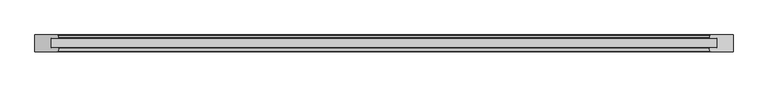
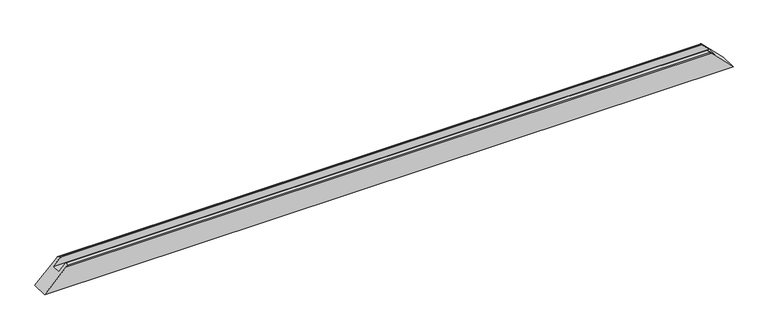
"""IFC4 building model written with IfcOpenShell, lengths in millimetres: proxy geometry, Weiku - Montante - Caixilho fixo : Weiku - Montante - Caixilho fixo."""

from ifc_helpers import new_model, si_unit, frame, origin, place, context, project, spatial, ellipse_curve, source, transform, mapped, element, save
from ifc_brep_helpers import plane_surface, cylinder_surface, advanced_brep


def generic_models_e46d5308(model_context):
    return source(origin(), model_context, "Body", "AdvancedBrep", [
        advanced_brep(
        [(-904.118227, -37.0070552, 66.881773), (-904.8909676, -36.0, 66.1090324), (-925.0, -36.0, 46.0), (-925.0, -9.5, 46.0), (-904.7, -9.5, 66.3), (-904.0, -8.8, 67.0), (-904.0, -7.4641016, 67.0), (-904.2679492, -6.4641016, 66.7320508), (-907.7113249, -0.5, 63.2886751), (-908.5773503, 0.0, 62.4226497), (-971.0, 0.0, 0.0), (-971.0, -47.0, 0.0), (-909.0978094, -47.0, 61.9021906), (-906.2000319, -44.7764571, 64.7999681), (906.2000319, -44.7764571, 64.7999681), (909.0978094, -47.0, 61.9021906), (971.0, -47.0, 0.0), (971.0, 0.0, 0.0), (908.5773503, 0.0, 62.4226497), (907.7113249, -0.5, 63.2886751), (904.2679492, -6.4641016, 66.7320508), (904.0, -7.4641016, 67.0), (904.0, -8.8, 67.0), (904.7, -9.5, 66.3), (925.0, -9.5, 46.0), (925.0, -36.0, 46.0), (904.8909676, -36.0, 66.1090324), (904.118227, -37.0070552, 66.881773)],
        [
            (0, 1, ellipse_curve(frame((-904.8909676, -36.8, 66.1090324), z_axis=(-0.7071067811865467, 0.0, 0.7071067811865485), x_axis=(-0.7071067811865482, 0.0, -0.7071067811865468)), 1.1313708, 0.8)),
            (1, 2),
            (2, 3),
            (3, 4),
            (4, 5, ellipse_curve(frame((-904.7, -8.8, 66.3), z_axis=(-0.7071067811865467, 0.0, 0.7071067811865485), x_axis=(-0.7071067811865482, 0.0, -0.7071067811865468)), 0.9899495, 0.7)),
            (5, 6),
            (6, 7, ellipse_curve(frame((-906.0, -7.4641016, 65.0), z_axis=(-0.7071067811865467, 0.0, 0.7071067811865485), x_axis=(-0.7071067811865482, 0.0, -0.7071067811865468)), 2.8284271, 2.0)),
            (7, 8),
            (8, 9, ellipse_curve(frame((-908.5773503, -1.0, 62.4226497), z_axis=(-0.7071067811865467, 0.0, 0.7071067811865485), x_axis=(-0.7071067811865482, 0.0, -0.7071067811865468)), 1.4142136, 1.0)),
            (9, 10),
            (10, 11),
            (11, 12),
            (12, 13, ellipse_curve(frame((-909.0978094, -44.0, 61.9021906), z_axis=(-0.7071067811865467, 0.0, 0.7071067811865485), x_axis=(-0.7071067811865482, 0.0, -0.7071067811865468)), 4.2426407, 3.0)),
            (13, 0),
            (14, 15, ellipse_curve(frame((909.0978094, -44.0, 61.9021906), z_axis=(0.7071067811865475, 0.0, 0.7071067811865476), x_axis=(-0.7071067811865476, 0.0, 0.7071067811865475)), 4.2426407, 3.0)),
            (15, 16),
            (16, 17),
            (17, 18),
            (18, 19, ellipse_curve(frame((908.5773503, -1.0, 62.4226497), z_axis=(0.7071067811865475, 0.0, 0.7071067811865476), x_axis=(-0.7071067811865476, 0.0, 0.7071067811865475)), 1.4142136, 1.0)),
            (19, 20),
            (20, 21, ellipse_curve(frame((906.0, -7.4641016, 65.0), z_axis=(0.7071067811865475, 0.0, 0.7071067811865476), x_axis=(-0.7071067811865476, 0.0, 0.7071067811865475)), 2.8284271, 2.0)),
            (21, 22),
            (22, 23, ellipse_curve(frame((904.7, -8.8, 66.3), z_axis=(0.7071067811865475, 0.0, 0.7071067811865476), x_axis=(-0.7071067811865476, 0.0, 0.7071067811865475)), 0.9899495, 0.7)),
            (23, 24),
            (24, 25),
            (25, 26),
            (26, 27, ellipse_curve(frame((904.8909676, -36.8, 66.1090324), z_axis=(0.7071067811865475, 0.0, 0.7071067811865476), x_axis=(-0.7071067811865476, 0.0, 0.7071067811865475)), 1.1313708, 0.8)),
            (27, 14),
            (13, 14),
            (27, 0),
            (12, 15),
            (11, 16),
            (10, 17),
            (9, 18),
            (2, 25),
            (24, 3),
            (1, 26),
            (8, 19),
            (7, 20),
            (6, 21),
            (5, 22),
            (4, 23),
        ],
        [
            plane_surface(frame((-1041.0, 15.0, -70.0), z_axis=(-0.7071067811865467, 0.0, 0.7071067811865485), x_axis=(0.0, -1.0, 0.0))),
            plane_surface(frame((901.0, 15.0, 70.0), z_axis=(0.7071067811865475, 0.0, 0.7071067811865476), x_axis=(0.0, -1.0, 0.0))),
            plane_surface(frame((-971.0, -37.0070552, 66.881773), z_axis=(0.0, -0.2588190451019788, 0.9659258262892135), x_axis=(1.0, 0.0, 0.0))),
            cylinder_surface(frame((-971.0, -44.0, 61.9021906), z_axis=(-1.0, 0.0, 0.0), x_axis=(0.0, -1.0, 0.0)), 3.0),
            plane_surface(frame((-971.0, -47.0, 61.9021906), z_axis=(0.0, -1.0, 0.0), x_axis=(1.0, 0.0, 0.0))),
            plane_surface(frame((-971.0, -47.0, 0.0), z_axis=(0.0, 0.0, -1.0), x_axis=(1.0, 0.0, 0.0))),
            plane_surface(frame((-971.0, 0.0, 0.0), z_axis=(0.0, 1.0, 0.0), x_axis=(1.0, 0.0, 0.0))),
            plane_surface(frame((-971.0, -9.5, 46.0), z_axis=(0.0, 0.0, 1.0), x_axis=(1.0, 0.0, 0.0))),
            plane_surface(frame((-971.0, -36.0, 46.0), z_axis=(0.0, 1.0, 0.0), x_axis=(1.0, 0.0, 0.0))),
            cylinder_surface(frame((-971.0, -36.8, 66.1090324), z_axis=(-1.0, 0.0, 0.0), x_axis=(0.0, -1.0, 0.0)), 0.8),
            cylinder_surface(frame((-971.0, -1.0, 62.4226497), z_axis=(-1.0, 0.0, 0.0), x_axis=(0.0, -1.0, 0.0)), 1.0),
            plane_surface(frame((-971.0, -0.5, 63.2886751), z_axis=(0.0, 0.49999999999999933, 0.866025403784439), x_axis=(1.0, 0.0, 0.0))),
            cylinder_surface(frame((-971.0, -7.4641016, 65.0), z_axis=(-1.0, 0.0, 0.0), x_axis=(0.0, -1.0, 0.0)), 2.0),
            plane_surface(frame((-971.0, -7.4641016, 67.0), z_axis=(0.0, 0.0, 1.0), x_axis=(1.0, 0.0, 0.0))),
            cylinder_surface(frame((-971.0, -8.8, 66.3), z_axis=(-1.0, 0.0, 0.0), x_axis=(0.0, -1.0, 0.0)), 0.7),
            plane_surface(frame((-971.0, -9.5, 66.3), z_axis=(0.0, -1.0, 0.0), x_axis=(1.0, 0.0, 0.0))),
        ],
        [
            (0, [[1, 2, 3, 4, 5, 6, 7, 8, 9, 10, 11, 12, 13, 14]]),
            (1, [[15, 16, 17, 18, 19, 20, 21, 22, 23, 24, 25, 26, 27, 28]]),
            (2, [[29, -28, 30, -14]]),
            (3, [[31, -15, -29, -13]]),
            (4, [[-16, -31, -12, 32]]),
            (5, [[-11, 33, -17, -32]]),
            (6, [[-10, 34, -18, -33]]),
            (7, [[35, -25, 36, -3]]),
            (8, [[37, -26, -35, -2]]),
            (9, [[-30, -27, -37, -1]]),
            (10, [[38, -19, -34, -9]]),
            (11, [[39, -20, -38, -8]]),
            (12, [[40, -21, -39, -7]]),
            (13, [[41, -22, -40, -6]]),
            (14, [[42, -23, -41, -5]]),
            (15, [[-36, -24, -42, -4]]),
        ],
    ),
    ])


if __name__ == "__main__":
    model = new_model("IFC4")
    model_context = context("Model", 3, world=origin())
    ifc_project = project(units=[si_unit("LENGTHUNIT", "METRE", prefix="MILLI")], contexts=[model_context])
    site = spatial("IfcSite", under=ifc_project)
    building = spatial("IfcBuilding", under=site)
    placement = place(None, origin())
    generic_models_shape = generic_models_e46d5308(model_context)
    element("IfcBuildingElementProxy", 1, Name="Weiku - Montante - Caixilho fixo : Weiku - Montante - Caixilho fixo", ObjectType="Weiku - Montante - Caixilho fixo : Weiku - Montante - Caixilho fixo", at=placement, inside=building, context=model_context, shape_type="MappedRepresentation", body=[
        mapped(generic_models_shape, transform((0.0, 0.0, 0.0), x_axis=(1.0, 0.0, 0.0), y_axis=(0.0, 1.0, 0.0), z_axis=(0.0, 0.0, 1.0))),
    ])
    save(model, "model.ifc")
